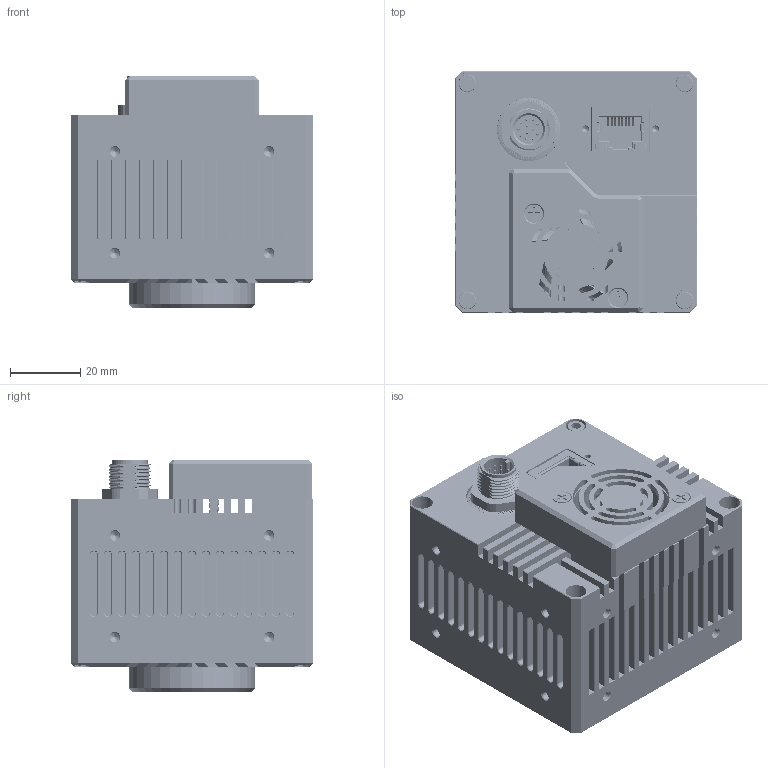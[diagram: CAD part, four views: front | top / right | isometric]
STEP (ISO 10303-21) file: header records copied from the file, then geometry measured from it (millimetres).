
FILE_DESCRIPTION(/* description */ (''),/* implementation_level */ '2;1');
FILE_NAME(/* name */ 'GEC130I-TF-C-V100.stp',/* time_stamp */ '2024-01-16T15:28:59+08:00',/* author */ (''),/* organization */ (''),/* preprocessor_version */ 'ST-DEVELOPER v16.7',/* originating_system */ 'SIEMENS PLM Software NX 12.0',/* authorisation */ '');
FILE_SCHEMA (('AUTOMOTIVE_DESIGN { 1 0 10303 214 3 1 1 1 }'));
Products named in the file (1): Admi77BCC929bzx8
Bounding box: 69 x 69 x 66.13 mm (x, y, z)
Volume: 135633.9 mm3; surface area: 88378.9 mm2
Topology: 71 solids, 75 shells, 2722 faces, 7409 edges, 4877 vertices
Faces by surface type: plane 1848, cylinder 475, cone 240, bspline 81, extrusion 33, sphere 24, torus 21
Full cylindrical faces by diameter (mm): 0.6 x12, 1.6 x2, 2.5 x16, 3 x5, 3.2 x8, 3.3 x4, 5 x8, 5.2 x4, 5.4 x4, 6 x8, 10.3 x2, 12.1 x1, 13 x1, 18 x1, 18.5 x1, 24.6 x1, 28.286 x1, 36 x1, 43 x1
Entity records: 171539 total; most frequent: CARTESIAN_POINT 106480, ORIENTED_EDGE 13484, DIRECTION 12779, EDGE_CURVE 6742, VECTOR 4511, LINE 4478, VERTEX_POINT 4405, AXIS2_PLACEMENT_3D 4134
